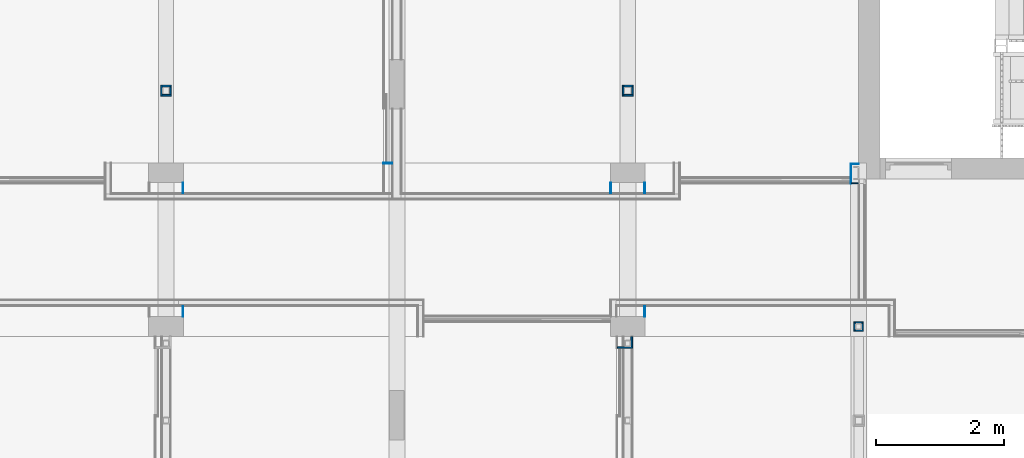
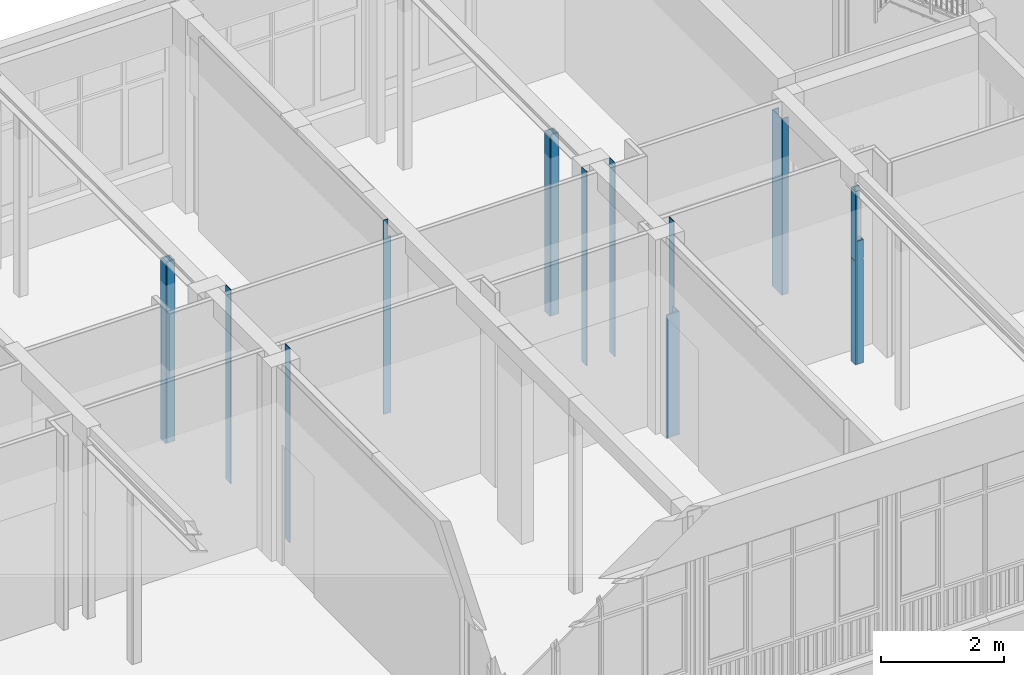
# One storey, part 95 of 135: 23 walls.
"""IFC2X3 building model written with IfcOpenShell, lengths in millimetres."""

from ifc_helpers import new_model, entity, si_unit, converted_unit, derived_unit, money_unit, direction, frame, origin_with_axes, place, context, subcontext, project, spatial, faceted_brep, material, type_object, element, save


model = new_model("IFC2X3")

# Units and contexts
model_context = context("Model", 3, precision=0.01, world=origin_with_axes(), true_north=direction((0.0, 1.0)))
body_context = subcontext(model_context, "Body", "Model", "MODEL_VIEW")
ifc_project = project(units=[si_unit("LENGTHUNIT", "METRE", prefix="MILLI"), si_unit("AREAUNIT", "SQUARE_METRE"), si_unit("VOLUMEUNIT", "CUBIC_METRE"), converted_unit("PLANEANGLEUNIT", "DEGREE", entity("IfcPlaneAngleMeasure", 0.0174532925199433), si_unit("PLANEANGLEUNIT", "RADIAN"), dimensions=[0, 0, 0, 0, 0, 0, 0]), money_unit("EUR"), converted_unit("TIMEUNIT", "Year", entity("IfcTimeMeasure", 31557600.0), si_unit("TIMEUNIT", "SECOND"), dimensions=[0, 0, 1, 0, 0, 0, 0]), si_unit("MASSUNIT", "GRAM", prefix="KILO"), si_unit("THERMODYNAMICTEMPERATUREUNIT", "DEGREE_CELSIUS"), si_unit("LUMINOUSINTENSITYUNIT", "LUMEN"), si_unit("ENERGYUNIT", "JOULE", prefix="MEGA"), derived_unit("THERMALCONDUCTANCEUNIT", [(si_unit("POWERUNIT", "WATT"), 1), (si_unit("LENGTHUNIT", "METRE"), -1), (si_unit("THERMODYNAMICTEMPERATUREUNIT", "KELVIN"), -1)]), derived_unit("SPECIFICHEATCAPACITYUNIT", [(si_unit("ENERGYUNIT", "JOULE"), 1), (si_unit("MASSUNIT", "GRAM", prefix="KILO"), -1), (si_unit("THERMODYNAMICTEMPERATUREUNIT", "KELVIN"), -1)]), derived_unit("MASSDENSITYUNIT", [(si_unit("MASSUNIT", "GRAM", prefix="KILO"), 1), (si_unit("VOLUMEUNIT", "CUBIC_METRE"), -1)])], contexts=[model_context])

# Site, building, storey
site_placement = place(None, origin_with_axes())
site = spatial("IfcSite", under=ifc_project, at=site_placement, Name="Site", CompositionType="ELEMENT")
building_placement = place(site_placement, origin_with_axes())
building = spatial("IfcBuilding", under=site, at=building_placement, Name="Naam gebouw", CompositionType="ELEMENT")
storey_placement = place(building_placement, origin_with_axes())
storey = spatial("IfcBuildingStorey", under=building, at=storey_placement, Name="Begane grond N", CompositionType="ELEMENT", Elevation=0.0)

# Walls
ifc_material = material(Name="Gipsplaat")
wall_type_1 = type_object("IfcWallType", Name="Metalstud 100 enkel 100", PredefinedType="NOTDEFINED")
wall_1_placement = place(storey_placement, frame((43469.99999999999, 18180.91242510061, 0.0), z_axis=(0.0, 0.0, 1.0), x_axis=(0.0, 1.0, 0.0)))
element("IfcWall", 1, at=wall_1_placement, inside=storey, type_object=wall_type_1, material=ifc_material, Name="_Wand-x", context=body_context, shape_type="Brep", body=[
    faceted_brep([(164.9999999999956, 0.0, 0.0), (164.9999999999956, 12.50000000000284, 0.0), (164.9999999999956, 12.50000000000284, 3850.0), (164.9999999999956, 0.0, 3850.0), (0.0, 0.0, 0.0), (0.0, 12.50000000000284, 0.0), (0.0, 12.50000000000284, 3850.0), (0.0, 0.0, 3850.0)], [[[0, 1, 2, 3]], [[4, 5, 1, 0]], [[1, 5, 6, 2]], [[2, 6, 7, 3]], [[4, 0, 3, 7]], [[5, 4, 7, 6]]]),
])
wall_2_placement = place(storey_placement, frame((43470.0, 20105.91242510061, 0.0), z_axis=(0.0, 0.0, 1.0), x_axis=(0.0, 1.0, 0.0)))
element("IfcWall", 2, at=wall_2_placement, inside=storey, type_object=wall_type_1, material=ifc_material, Name="_Wand-x", context=body_context, shape_type="Brep", body=[
    faceted_brep([(164.9999999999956, 0.0, 0.0), (164.9999999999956, 12.50000000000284, 0.0), (164.9999999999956, 12.50000000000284, 3850.0), (164.9999999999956, 0.0, 3850.0), (0.0, 0.0, 0.0), (0.0, 12.50000000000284, 0.0), (0.0, 12.50000000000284, 3850.0), (0.0, 0.0, 3850.0)], [[[0, 1, 2, 3]], [[0, 4, 5, 1]], [[1, 5, 6, 2]], [[2, 6, 7, 3]], [[4, 0, 3, 7]], [[5, 4, 7, 6]]]),
])
wall_3_placement = place(storey_placement, frame((50129.99996125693, 20105.91242510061, 0.0), z_axis=(0.0, 0.0, 1.0), x_axis=(0.0, 1.0, 0.0)))
element("IfcWall", 3, at=wall_3_placement, inside=storey, type_object=wall_type_1, material=ifc_material, Name="_Wand-x", context=body_context, shape_type="Brep", body=[
    faceted_brep([(164.9999999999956, -12.50000000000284, 0.0), (164.9999999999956, 0.0, 0.0), (164.9999999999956, 0.0, 3850.0), (164.9999999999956, -12.50000000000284, 3850.0), (0.0, -12.50000000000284, 0.0), (0.0, 0.0, 0.0), (0.0, 0.0, 3850.0), (0.0, -12.50000000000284, 3850.0)], [[[0, 1, 2, 3]], [[0, 4, 5, 1]], [[1, 5, 6, 2]], [[2, 6, 7, 3]], [[4, 0, 3, 7]], [[5, 4, 7, 6]]]),
])
wall_4_placement = place(storey_placement, frame((50670.00003874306, 20105.91242510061, 0.0), z_axis=(0.0, 0.0, 1.0), x_axis=(0.0, 1.0, 0.0)))
element("IfcWall", 4, at=wall_4_placement, inside=storey, type_object=wall_type_1, material=ifc_material, Name="_Wand-x", context=body_context, shape_type="Brep", body=[
    faceted_brep([(164.9999999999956, 0.0, 0.0), (164.9999999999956, 12.50000000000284, 0.0), (164.9999999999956, 12.50000000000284, 3850.0), (164.9999999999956, 0.0, 3850.0), (0.0, 0.0, 0.0), (0.0, 12.50000000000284, 0.0), (0.0, 12.50000000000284, 3850.0), (0.0, 0.0, 3850.0)], [[[0, 1, 2, 3]], [[0, 4, 5, 1]], [[1, 5, 6, 2]], [[2, 6, 7, 3]], [[4, 0, 3, 7]], [[5, 4, 7, 6]]]),
])
wall_5_placement = place(storey_placement, frame((50669.99999999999, 18180.91242510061, 0.0), z_axis=(0.0, 0.0, 1.0), x_axis=(0.0, 1.0, 0.0)))
element("IfcWall", 5, at=wall_5_placement, inside=storey, type_object=wall_type_1, material=ifc_material, Name="_Wand-x", context=body_context, shape_type="Brep", body=[
    faceted_brep([(164.999999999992, 0.0, 0.0), (164.999999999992, 12.50000000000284, 0.0), (164.999999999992, 12.50000000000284, 3850.0), (164.999999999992, 0.0, 3850.0), (0.0, 0.0, 0.0), (0.0, 12.50000000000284, 0.0), (0.0, 12.50000000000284, 3850.0), (0.0, 0.0, 3850.0)], [[[0, 1, 2, 3]], [[4, 5, 1, 0]], [[1, 5, 6, 2]], [[2, 6, 7, 3]], [[4, 0, 3, 7]], [[5, 4, 7, 6]]]),
])
wall_6_placement = place(storey_placement, frame((46725.0, 20580.9124251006, 0.0), z_axis=(0.0, 0.0, 1.0), x_axis=(-1.0, 0.0, 0.0)))
element("IfcWall", 6, at=wall_6_placement, inside=storey, type_object=wall_type_1, material=ifc_material, Name="_Wand-x", context=body_context, shape_type="Brep", body=[
    faceted_brep([(137.5000000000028, 0.0, 3850.0), (50.00000000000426, 0.0, 3850.000195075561), (50.00000000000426, 2.860907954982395e-06, 3500.0), (0.0, 0.0, 3500.0), (0.0, 0.0, 0.0), (137.5000000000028, 0.0, 0.0), (137.5000000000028, 2.860907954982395e-06, 2049.999999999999), (125.0, 2.860907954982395e-06, 2049.999999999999), (125.0, 2.860907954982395e-06, 2069.999999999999), (137.5000000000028, 2.860907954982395e-06, 2069.999999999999), (137.5000000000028, 12.49999999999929, 3850.0), (50.00000000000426, 12.49999999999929, 3850.000195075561), (50.00000000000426, 12.49999999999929, 3500.0), (0.0, 12.49999999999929, 3500.0), (0.0, 12.49999999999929, 0.0), (137.5000000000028, 12.49999999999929, 0.0), (137.5000000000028, 12.49999999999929, 2049.999999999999), (125.0, 12.49999999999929, 2049.999999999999), (125.0, 12.49999999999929, 2069.999999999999), (137.5000000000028, 12.49999999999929, 2069.999999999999)], [[[0, 1, 2, 3, 4, 5, 6, 7, 8, 9]], [[10, 11, 1, 0]], [[12, 2, 1, 11]], [[12, 13, 3, 2]], [[4, 3, 13, 14]], [[4, 14, 15, 5]], [[5, 15, 16, 6]], [[16, 17, 7, 6]], [[17, 18, 8, 7]], [[18, 19, 9, 8]], [[10, 0, 9, 19]], [[13, 12, 11, 10, 19, 18, 17, 16, 15, 14]]]),
])
wall_type_2 = type_object("IfcWallType", Name="Gipsplaat 25", PredefinedType="NOTDEFINED")
wall_7_placement = place(storey_placement, frame((50314.99999999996, 21620.91242510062, 0.0), z_axis=(0.0, 0.0, 1.0), x_axis=(1.0, 0.0, 0.0)))
element("IfcWall", 7, at=wall_7_placement, inside=storey, type_object=wall_type_2, material=ifc_material, Name="_Wand-x", context=body_context, shape_type="Brep", body=[
    faceted_brep([(170.0000000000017, 25.00000000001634, 0.0), (169.9999999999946, 0.0, 0.0), (24.99999999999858, 0.0, 0.0), (24.99999999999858, 25.00000000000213, 0.0), (170.0000000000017, 25.00000000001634, 3590.000000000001), (169.9999999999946, 0.0, 3590.000000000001), (24.99999999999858, 0.0, 3590.000000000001), (24.99999999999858, 25.00000000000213, 3590.000000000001)], [[[0, 1, 2, 3]], [[1, 0, 4, 5]], [[1, 5, 6, 2]], [[7, 3, 2, 6]], [[4, 0, 3, 7]], [[5, 4, 7, 6]]]),
])
wall_8_placement = place(storey_placement, frame((50314.99999999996, 21790.91242510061, 0.0), z_axis=(0.0, 0.0, 1.0), x_axis=(1.0, 0.0, 0.0)))
element("IfcWall", 8, at=wall_8_placement, inside=storey, type_object=wall_type_2, material=ifc_material, Name="_Wand-x", context=body_context, shape_type="Brep", body=[
    faceted_brep([(170.0000000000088, -24.99999999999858, 3590.000000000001), (170.0000000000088, 0.0, 3590.000000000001), (24.99999999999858, 0.0, 3590.000000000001), (24.99999999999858, -24.99999999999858, 3590.000000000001), (170.0000000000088, -24.99999999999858, 0.0), (170.0000000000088, 0.0, 0.0), (24.99999999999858, 0.0, 0.0), (24.99999999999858, -24.99999999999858, 0.0)], [[[0, 1, 2, 3]], [[1, 0, 4, 5]], [[1, 5, 6, 2]], [[7, 3, 2, 6]], [[4, 0, 3, 7]], [[5, 4, 7, 6]]]),
])
for number, where, z_axis, x_axis, name in (
    (9, (43114.99999999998, 21620.91242510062, 0.0), (0.0, 0.0, 1.0), (0.0, 1.0, 0.0), "_Wand-x"),
    (10, (50314.99999999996, 21620.91242510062, 0.0), (0.0, 0.0, 1.0), (0.0, 1.0, 0.0), "_Wand-x"),
):
    element("IfcWall", number, at=place(storey_placement, frame(where, z_axis=z_axis, x_axis=x_axis)), inside=storey, type_object=wall_type_2, material=ifc_material, Name=name, context=body_context, shape_type="Brep", body=[
        faceted_brep([(169.999999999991, -24.99999999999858, 3590.000000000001), (169.999999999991, 0.0, 3590.000000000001), (0.0, 0.0, 3590.000000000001), (0.0, -24.99999999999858, 3590.000000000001), (169.999999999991, -24.99999999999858, 0.0), (169.999999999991, 0.0, 0.0), (0.0, 0.0, 0.0), (0.0, -24.99999999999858, 0.0)], [[[0, 1, 2, 3]], [[1, 0, 4, 5]], [[1, 5, 6, 2]], [[7, 3, 2, 6]], [[4, 0, 3, 7]], [[5, 4, 7, 6]]]),
    ])
wall_9_placement = place(storey_placement, frame((43114.99999999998, 21620.91242510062, 0.0), z_axis=(0.0, 0.0, 1.0), x_axis=(1.0, 0.0, 0.0)))
element("IfcWall", 11, at=wall_9_placement, inside=storey, type_object=wall_type_2, material=ifc_material, Name="_Wand-x", context=body_context, shape_type="Brep", body=[
    faceted_brep([(170.0000000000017, 25.00000000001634, 0.0), (169.9999999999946, 0.0, 0.0), (24.99999999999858, 0.0, 0.0), (24.99999999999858, 25.00000000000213, 0.0), (170.0000000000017, 25.00000000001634, 3590.000000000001), (169.9999999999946, 0.0, 3590.000000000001), (24.99999999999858, 0.0, 3590.000000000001), (24.99999999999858, 25.00000000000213, 3590.000000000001)], [[[0, 1, 2, 3]], [[1, 0, 4, 5]], [[1, 5, 6, 2]], [[7, 3, 2, 6]], [[4, 0, 3, 7]], [[5, 4, 7, 6]]]),
])
wall_10_placement = place(storey_placement, frame((43284.99999999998, 21620.9124251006, 0.0), z_axis=(0.0, 0.0, 1.0), x_axis=(0.0, 1.0, 0.0)))
element("IfcWall", 12, at=wall_10_placement, inside=storey, type_object=wall_type_2, material=ifc_material, Name="_Wand-x", context=body_context, shape_type="Brep", body=[
    faceted_brep([(145.0000000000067, 25.00000000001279, 0.0), (145.0000000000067, 0.0, 0.0), (24.99999999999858, 0.0, 0.0), (25.00000000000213, 25.00000000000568, 0.0), (145.0000000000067, 25.00000000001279, 3590.000000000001), (145.0000000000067, 0.0, 3590.000000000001), (24.99999999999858, 0.0, 3590.000000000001), (25.00000000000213, 25.00000000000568, 3590.000000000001)], [[[0, 1, 2, 3]], [[1, 0, 4, 5]], [[1, 5, 6, 2]], [[7, 3, 2, 6]], [[4, 0, 3, 7]], [[5, 4, 7, 6]]]),
])
wall_11_placement = place(storey_placement, frame((43114.99999999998, 21790.91242510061, 0.0), z_axis=(0.0, 0.0, 1.0), x_axis=(1.0, 0.0, 0.0)))
element("IfcWall", 13, at=wall_11_placement, inside=storey, type_object=wall_type_2, material=ifc_material, Name="_Wand-x", context=body_context, shape_type="Brep", body=[
    faceted_brep([(170.0000000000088, -24.99999999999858, 3590.000000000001), (170.0000000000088, 0.0, 3590.000000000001), (24.99999999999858, 0.0, 3590.000000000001), (24.99999999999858, -24.99999999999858, 3590.000000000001), (170.0000000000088, -24.99999999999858, 0.0), (170.0000000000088, 0.0, 0.0), (24.99999999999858, 0.0, 0.0), (24.99999999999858, -24.99999999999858, 0.0)], [[[0, 1, 2, 3]], [[1, 0, 4, 5]], [[1, 5, 6, 2]], [[7, 3, 2, 6]], [[4, 0, 3, 7]], [[5, 4, 7, 6]]]),
])
wall_12_placement = place(storey_placement, frame((50484.99999999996, 21620.9124251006, 0.0), z_axis=(0.0, 0.0, 1.0), x_axis=(0.0, 1.0, 0.0)))
element("IfcWall", 14, at=wall_12_placement, inside=storey, type_object=wall_type_2, material=ifc_material, Name="_Wand-x", context=body_context, shape_type="Brep", body=[
    faceted_brep([(145.0000000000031, 25.00000000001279, 0.0), (145.0000000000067, 0.0, 0.0), (24.99999999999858, 0.0, 0.0), (24.99999999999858, 25.00000000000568, 0.0), (145.0000000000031, 25.00000000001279, 3590.000000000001), (145.0000000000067, 0.0, 3590.000000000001), (24.99999999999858, 0.0, 3590.000000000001), (24.99999999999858, 25.00000000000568, 3590.000000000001)], [[[0, 1, 2, 3]], [[1, 0, 4, 5]], [[1, 5, 6, 2]], [[7, 3, 2, 6]], [[4, 0, 3, 7]], [[5, 4, 7, 6]]]),
])
wall_13_placement = place(storey_placement, frame((50474.99999999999, 17685.91242510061, 0.0), z_axis=(0.0, 0.0, 1.0), x_axis=(0.0, 1.0, 0.0)))
element("IfcWall", 15, at=wall_13_placement, inside=storey, type_object=wall_type_2, material=ifc_material, Name="_Wand-x", context=body_context, shape_type="Brep", body=[
    faceted_brep([(24.99999999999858, 0.0, 0.0), (24.99999999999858, 24.99999999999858, 0.0), (184.9999999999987, 24.99999999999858, 0.0), (184.9999999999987, 0.0, 0.0), (24.99999999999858, 0.0, 2440.0), (24.99999999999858, 24.99999999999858, 2440.0), (184.9999999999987, 24.99999999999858, 2440.0), (184.9999999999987, 0.0, 2440.0)], [[[0, 1, 2, 3]], [[4, 5, 1, 0]], [[1, 5, 6, 2]], [[7, 3, 2, 6]], [[4, 0, 3, 7]], [[5, 4, 7, 6]]]),
])
wall_14_placement = place(storey_placement, frame((50474.99999999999, 17685.91242510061, 0.0), z_axis=(0.0, 0.0, 1.0), x_axis=(-1.0, 0.0, 0.0)))
element("IfcWall", 16, at=wall_14_placement, inside=storey, type_object=wall_type_2, material=ifc_material, Name="_Wand-x", context=body_context, shape_type="Brep", body=[
    faceted_brep([(237.5000000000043, -24.99999999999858, 2440.0), (237.5000000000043, 0.0, 2440.0), (0.0, 0.0, 2440.0), (0.0, -24.99999999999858, 2440.0), (237.5000000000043, -24.99999999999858, 0.0), (237.5000000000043, 0.0, 0.0), (0.0, 0.0, 0.0), (0.0, -24.99999999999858, 0.0)], [[[0, 1, 2, 3]], [[1, 0, 4, 5]], [[1, 5, 6, 2]], [[7, 3, 2, 6]], [[4, 0, 3, 7]], [[5, 4, 7, 6]]]),
])
wall_15_placement = place(storey_placement, frame((53925.00000000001, 17950.91242510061, 0.0), z_axis=(0.0, 0.0, 1.0), x_axis=(0.0, 1.0, 0.0)))
element("IfcWall", 17, at=wall_15_placement, inside=storey, type_object=wall_type_2, material=ifc_material, Name="_Wand-x", context=body_context, shape_type="Brep", body=[
    faceted_brep([(149.9999999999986, 0.0, 0.0), (149.9999999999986, 0.0, 2049.999999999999), (149.9999999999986, -4.999999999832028, 2049.999999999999), (149.9999999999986, -4.999999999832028, 2069.999999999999), (149.9999999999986, 0.0, 2069.999999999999), (149.9999999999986, 0.0, 3439.999999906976), (149.9999999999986, -24.99999999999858, 3439.999999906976), (149.9999999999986, -24.99999999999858, 0.0), (0.0, 0.0, 0.0), (0.0, 0.0, 2049.999999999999), (0.0, -4.999999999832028, 2049.999999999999), (0.0, -4.999999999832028, 2069.999999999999), (0.0, 0.0, 2069.999999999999), (0.0, 0.0, 2440.0), (0.0, 0.0, 3439.999999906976), (0.0, -24.99999999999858, 3439.999999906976), (0.0, -24.99999999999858, 2440.0), (0.0, -24.99999999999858, 0.0)], [[[0, 1, 2, 3, 4, 5, 6, 7]], [[8, 9, 1, 0]], [[10, 2, 1, 9]], [[11, 3, 2, 10]], [[12, 4, 3, 11]], [[5, 4, 12, 13, 14]], [[6, 5, 14, 15]], [[7, 6, 15, 16, 17]], [[0, 7, 17, 8]], [[11, 10, 9, 8, 17, 16, 15, 14, 13, 12]]]),
])
wall_16_placement = place(storey_placement, frame((53925.00000000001, 18100.91242510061, 0.0), z_axis=(0.0, 0.0, 1.0), x_axis=(1.0, 0.0, 0.0)))
element("IfcWall", 18, at=wall_16_placement, inside=storey, type_object=wall_type_2, material=ifc_material, Name="_Wand-x", context=body_context, shape_type="Brep", body=[
    faceted_brep([(149.9999999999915, -24.99999999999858, 2440.0), (149.9999999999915, -24.99999999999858, 2069.999999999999), (149.9999999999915, 0.0, 2069.999999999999), (149.9999999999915, 0.0, 2440.0), (149.9999999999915, 0.0, 3439.999999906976), (149.9999999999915, -24.99999999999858, 3439.999999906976), (144.999999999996, -24.99999999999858, 2049.999999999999), (144.999999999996, -24.99999999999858, 2069.999999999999), (24.99999999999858, -24.99999999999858, 3439.999999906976), (24.99999999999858, -24.99999999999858, 0.0), (149.9999999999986, -24.99999999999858, 0.0), (149.9999999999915, -24.99999999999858, 2049.999999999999), (144.999999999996, 0.0, 2069.999999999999), (144.999999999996, 0.0, 2049.999999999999), (149.9999999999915, 0.0, 2049.999999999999), (149.9999999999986, 0.0, 0.0), (24.99999999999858, 0.0, 0.0), (24.99999999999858, 0.0, 3439.999999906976)], [[[0, 1, 2, 3, 4, 5]], [[6, 7, 1, 0, 5, 8, 9, 10, 11]], [[7, 12, 2, 1]], [[12, 13, 14, 15, 16, 17, 4, 3, 2]], [[17, 8, 5, 4]], [[6, 13, 12, 7]], [[9, 8, 17, 16]], [[9, 16, 15, 10]], [[15, 14, 11, 10]], [[6, 11, 14, 13]]]),
])
wall_17_placement = place(storey_placement, frame((54075.0, 17950.91242510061, 0.0), z_axis=(0.0, 0.0, 1.0), x_axis=(0.0, 1.0, 0.0)))
element("IfcWall", 19, at=wall_17_placement, inside=storey, type_object=wall_type_2, material=ifc_material, Name="_Wand-x", context=body_context, shape_type="Brep", body=[
    faceted_brep([(24.99999999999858, 0.0, 2440.0), (24.99999999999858, 0.0, 2069.999999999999), (124.9999999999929, 0.0, 2069.999999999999), (124.9999999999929, 0.0, 2440.0), (24.99999999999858, 5.000000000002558, 2049.999999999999), (24.99999999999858, 5.000000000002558, 2069.999999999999), (24.99999999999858, 24.99999999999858, 2440.0), (24.99999999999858, 24.99999999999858, 0.0), (24.99999999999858, 0.0, 0.0), (24.99999999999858, 0.0, 2049.999999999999), (124.9999999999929, 4.999999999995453, 2069.999999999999), (124.9999999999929, 4.999999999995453, 2049.999999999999), (124.9999999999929, 0.0, 2049.999999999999), (124.9999999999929, 0.0, 0.0), (124.9999999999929, 24.99999999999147, 0.0), (124.9999999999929, 24.99999999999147, 2440.0)], [[[0, 1, 2, 3]], [[4, 5, 1, 0, 6, 7, 8, 9]], [[5, 10, 2, 1]], [[10, 11, 12, 13, 14, 15, 3, 2]], [[0, 3, 15, 6]], [[4, 11, 10, 5]], [[6, 15, 14, 7]], [[7, 14, 13, 8]], [[13, 12, 9, 8]], [[4, 9, 12, 11]]]),
])
wall_18_placement = place(storey_placement, frame((53925.00000000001, 17950.91242510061, 0.0), z_axis=(0.0, 0.0, 1.0), x_axis=(1.0, 0.0, 0.0)))
element("IfcWall", 20, at=wall_18_placement, inside=storey, type_object=wall_type_2, material=ifc_material, Name="_Wand-x", context=body_context, shape_type="Brep", body=[
    faceted_brep([(149.9999999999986, 0.0, 2440.0), (149.9999999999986, 0.0, 2069.999999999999), (149.9999999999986, 24.99999999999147, 2069.999999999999), (149.9999999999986, 24.99999999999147, 2440.0), (144.999999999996, 0.0, 2049.999999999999), (144.999999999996, 0.0, 2069.999999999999), (24.99999999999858, 0.0, 2440.0), (24.99999999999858, 0.0, 0.0), (149.9999999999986, 0.0, 0.0), (149.9999999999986, 0.0, 2049.999999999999), (144.999999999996, 24.99999999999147, 2069.999999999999), (144.999999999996, 24.99999999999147, 2049.999999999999), (149.9999999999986, 24.99999999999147, 2049.999999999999), (149.9999999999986, 24.99999999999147, 0.0), (24.99999999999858, 24.99999999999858, 0.0), (24.99999999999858, 24.99999999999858, 2440.0)], [[[0, 1, 2, 3]], [[4, 5, 1, 0, 6, 7, 8, 9]], [[5, 10, 2, 1]], [[10, 11, 12, 13, 14, 15, 3, 2]], [[6, 0, 3, 15]], [[4, 11, 10, 5]], [[6, 15, 14, 7]], [[14, 13, 8, 7]], [[13, 12, 9, 8]], [[4, 9, 12, 11]]]),
])
wall_type_3 = type_object("IfcWallType", Name="Gipsplaat 13", PredefinedType="NOTDEFINED")
wall_19_placement = place(storey_placement, frame((54100.0, 20255.91242510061, 0.0), z_axis=(0.0, 0.0, 1.0), x_axis=(-1.0, 0.0, 0.0)))
element("IfcWall", 21, at=wall_19_placement, inside=storey, type_object=wall_type_3, material=ifc_material, Name="_Wand-x", context=body_context, shape_type="Brep", body=[
    faceted_brep([(212.4999999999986, -12.49999999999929, 0.0), (212.4999999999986, -12.49999999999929, 3499.999993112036), (100.0000000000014, -12.49999999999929, 3499.999993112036), (100.0000000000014, -12.49999999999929, 0.0), (212.4999999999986, 0.0, 0.0), (212.4999999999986, 0.0, 3499.999993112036), (100.0000000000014, 0.0, 3499.999993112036), (100.0000000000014, 0.0, 2690.0), (100.0000000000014, 0.0, 0.0)], [[[0, 1, 2, 3]], [[4, 5, 1, 0]], [[5, 6, 2, 1]], [[3, 2, 6, 7, 8]], [[8, 4, 0, 3]], [[7, 6, 5, 4, 8]]]),
])
wall_20_placement = place(storey_placement, frame((53887.5, 20568.41242510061, 0.0), z_axis=(0.0, 0.0, 1.0), x_axis=(0.0, -1.0, 0.0)))
element("IfcWall", 22, at=wall_20_placement, inside=storey, type_object=wall_type_3, material=ifc_material, Name="_Wand-x", context=body_context, shape_type="Brep", body=[
    faceted_brep([(12.49999999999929, -12.50000000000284, 0.0), (12.49999999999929, -12.50000000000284, 3499.999993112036), (12.49999999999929, 0.0, 3499.999993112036), (12.49999999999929, 0.0, 0.0), (312.4999999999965, -12.50000000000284, 0.0), (312.4999999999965, -12.50000000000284, 3499.999993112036), (312.4999999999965, 0.0, 3499.999993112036), (312.4999999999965, 0.0, 0.0)], [[[0, 1, 2, 3]], [[4, 5, 1, 0]], [[5, 6, 2, 1]], [[3, 2, 6, 7]], [[0, 3, 7, 4]], [[7, 6, 5, 4]]]),
])
wall_21_placement = place(storey_placement, frame((54000.0, 20568.41242510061, 0.0), z_axis=(0.0, 0.0, 1.0), x_axis=(-1.0, 0.0, 0.0)))
element("IfcWall", 23, at=wall_21_placement, inside=storey, type_object=wall_type_3, material=ifc_material, Name="_Wand-x", context=body_context, shape_type="Brep", body=[
    faceted_brep([(125.0, 0.0, 0.0), (125.0, 0.0, 3499.999993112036), (0.0, 0.0, 3499.999993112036), (0.0, 0.0, 0.0), (125.0, 12.49999999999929, 0.0), (125.0, 12.49999999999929, 3499.999993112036), (0.0, 12.49999999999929, 3499.999993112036), (0.0, 12.49999999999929, 0.0)], [[[0, 1, 2, 3]], [[4, 5, 1, 0]], [[5, 6, 2, 1]], [[3, 2, 6, 7]], [[3, 7, 4, 0]], [[7, 6, 5, 4]]]),
])

save(model, "model.ifc")
